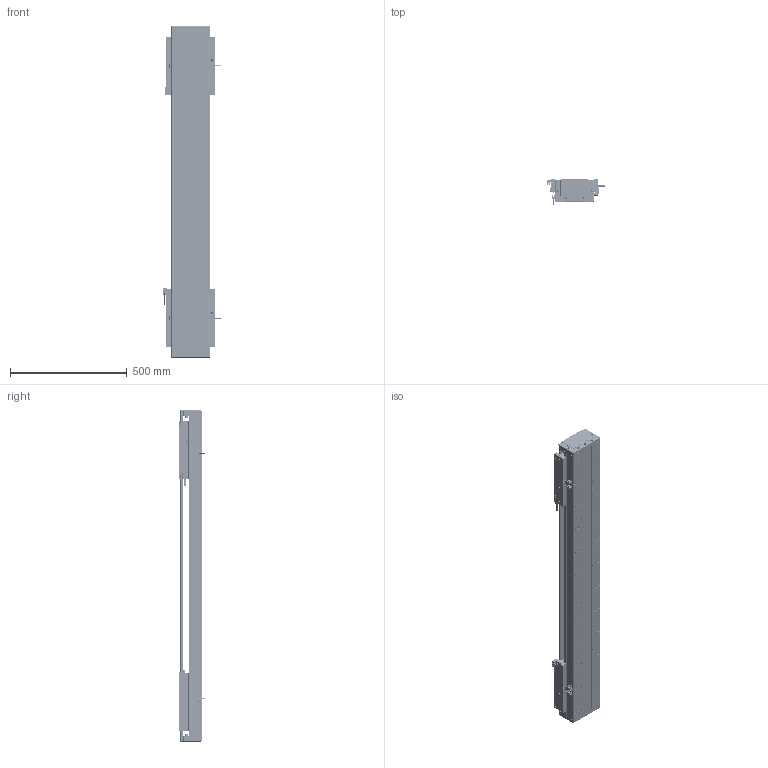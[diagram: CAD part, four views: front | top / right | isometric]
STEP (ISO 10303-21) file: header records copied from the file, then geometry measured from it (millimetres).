
FILE_DESCRIPTION (( 'STEP AP203' ), '1' );
FILE_NAME ('DA-C165-2-C3-T800-C010-0.2 直线电机.STEP', '2023-06-13T09:31:23', ( '微软用户' ), ( '微软中国' ), 'SwSTEP 2.0', 'SolidWorks 2019', '' );
FILE_SCHEMA (( 'CONFIG_CONTROL_DESIGN' ));
Length unit declared in the file: millimetre
Products named in the file (19): 复件 DMA-010-0.2 读数头^DA-C165-C3-T-C010-0.2-N 直线电机; 复件 XD-U-02L 磁栅尺^DA-C165-C3-T-C010-0.2-N 直线电机_T; 复件 DA165-GYP-00 光电感应片^DA-C165-C3-T-C010-0.2-N 直线电机; 复件 DA165-DG-H-N-00 端盖^DA-C165-C3-T-C010-0.2-N 直线电机; 珨极趙賑雄怢啣C3-wf; DA-C165-2-C3-T800-C010-0.2 眻盄萇儂; 葩璃 PM-T45^DA-C165-C3-T-C010-0.2-N 眻盄萇儂; 复件 DA126-GYP-ZJ-00 中间光电感应片^DA-C165-C3-T-C010-0.2-N 直线电机; 葩璃 CKM03-W075-C1C2-TP-3.0^DA-C165-C3-T-C010-0.2-N 眻盄萇儂; 葩璃 PM-Y45^DA-C165-C3-T-C010-0.2-N 眻盄萇儂; 葩璃 CKM01-W075-TRL^DA-C165-C3-T-C010-0.2-N 眻盄萇儂; 复件 六角薄螺母 M3^DA-C165-C3-T-C010-0.2-N 直线电机_GB_FASTENER_NUT_STNAB M3-C; 复件 DKW-HXJ-JY-00 缓冲橡胶^DA-C165-C3-T-C010-0.2-N 直线电机; 复件 66338-1000-006-00 光电感应块^DA-C165-C3-T-C010-0.2-N 直线电机; 葩璃 DA95-GT-T-00^IU-CU165-L 菁釱絳寢_T; 复件 DA95-HXJ-00 缓冲橡胶^DA-C165-C3-T-C010-0.2-N 直线电机; 复件 DA165-T-002-00 盖板^DA-C165-C3-T-C010-0.2-N 直线电机_0840-002-00; IU-CU165-L 菁釱絳寢; 复件 CU165 底座^IU-CU165-L 底座导轨_L1380
Assembly tree (40 placements, depth 3):
  DA-C165-2-C3-T800-C010-0.2 眻盄萇儂
    IU-CU165-L 菁釱絳寢
      复件 CU165 底座^IU-CU165-L 底座导轨_L1380
      葩璃 DA95-GT-T-00^IU-CU165-L 菁釱絳寢_T  x4
    复件 DA165-DG-H-N-00 端盖^DA-C165-C3-T-C010-0.2-N 直线电机  x2
    复件 DA95-HXJ-00 缓冲橡胶^DA-C165-C3-T-C010-0.2-N 直线电机  x4
    复件 DA165-T-002-00 盖板^DA-C165-C3-T-C010-0.2-N 直线电机_0840-002-00
    复件 XD-U-02L 磁栅尺^DA-C165-C3-T-C010-0.2-N 直线电机_T
    葩璃 PM-T45^DA-C165-C3-T-C010-0.2-N 眻盄萇儂  x4
    葩璃 CKM01-W075-TRL^DA-C165-C3-T-C010-0.2-N 眻盄萇儂
    复件 DMA-010-0.2 读数头^DA-C165-C3-T-C010-0.2-N 直线电机  x2
    复件 DA165-GYP-00 光电感应片^DA-C165-C3-T-C010-0.2-N 直线电机  x2
    复件 66338-1000-006-00 光电感应块^DA-C165-C3-T-C010-0.2-N 直线电机
    葩璃 PM-Y45^DA-C165-C3-T-C010-0.2-N 眻盄萇儂
    复件 DA126-GYP-ZJ-00 中间光电感应片^DA-C165-C3-T-C010-0.2-N 直线电机
    葩璃 CKM03-W075-C1C2-TP-3.0^DA-C165-C3-T-C010-0.2-N 眻盄萇儂  x2
    复件 DKW-HXJ-JY-00 缓冲橡胶^DA-C165-C3-T-C010-0.2-N 直线电机  x2
    复件 六角薄螺母 M3^DA-C165-C3-T-C010-0.2-N 直线电机_GB_FASTENER_NUT_STNAB M3-C  x8
    珨极趙賑雄怢啣C3-wf  x2
Bounding box: 247.2 x 111.45 x 1420 mm (x, y, z)
Volume: 12394515.8 mm3; surface area: 3191047.2 mm2
Topology: 117 solids, 217 shells, 5938 faces, 15617 edges, 9604 vertices
Faces by surface type: cylinder 2896, plane 1990, cone 956, torus 88, sphere 8
Entity records: 119070 total; most frequent: CARTESIAN_POINT 28924, DIRECTION 18489, ORIENTED_EDGE 18120, EDGE_CURVE 9060, AXIS2_PLACEMENT_3D 6971, VERTEX_POINT 5858, LINE 4547, VECTOR 4547
